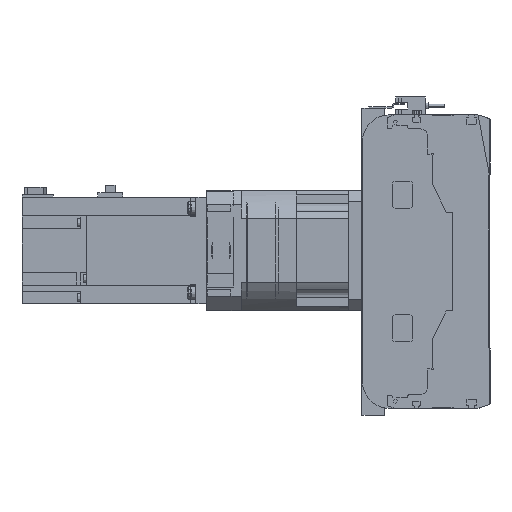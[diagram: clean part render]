
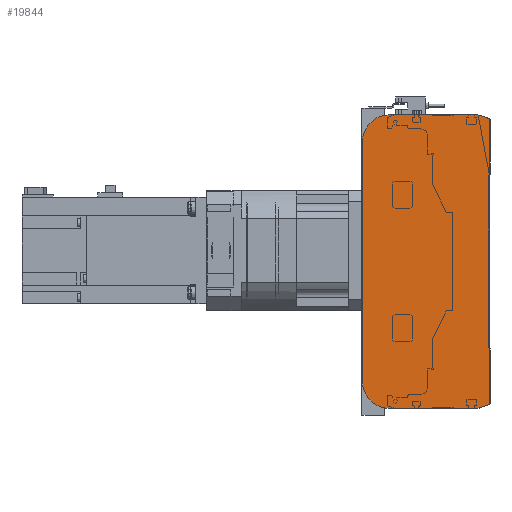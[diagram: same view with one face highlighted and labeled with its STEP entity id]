
A CAD part, left-side view. The second image highlights one B-rep face of the part: STEP entity #19844.
In plain terms, the highlighted planar face has unit normal (-1, 0, 0).
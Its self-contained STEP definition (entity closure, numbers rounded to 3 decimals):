
#1142=CIRCLE('',#21612,20.);
#1143=CIRCLE('',#21615,20.);
#4862=ORIENTED_EDGE('',*,*,#8584,.F.);
#4863=ORIENTED_EDGE('',*,*,#8626,.F.);
#4864=ORIENTED_EDGE('',*,*,#8624,.F.);
#4865=ORIENTED_EDGE('',*,*,#8622,.F.);
#4866=ORIENTED_EDGE('',*,*,#8611,.F.);
#4867=ORIENTED_EDGE('',*,*,#8602,.F.);
#4868=ORIENTED_EDGE('',*,*,#8598,.F.);
#4869=ORIENTED_EDGE('',*,*,#8595,.F.);
#8584=EDGE_CURVE('',#10789,#10790,#12571,.T.);
#8595=EDGE_CURVE('',#10790,#10797,#12582,.T.);
#8598=EDGE_CURVE('',#10797,#10799,#12585,.T.);
#8602=EDGE_CURVE('',#10799,#10800,#12589,.T.);
#8611=EDGE_CURVE('',#10800,#10806,#12598,.T.);
#8622=EDGE_CURVE('',#10806,#10813,#1142,.T.);
#8624=EDGE_CURVE('',#10813,#10814,#12610,.T.);
#8626=EDGE_CURVE('',#10814,#10789,#1143,.T.);
#10789=VERTEX_POINT('',#32950);
#10790=VERTEX_POINT('',#32952);
#10797=VERTEX_POINT('',#32971);
#10799=VERTEX_POINT('',#32977);
#10800=VERTEX_POINT('',#32983);
#10806=VERTEX_POINT('',#32999);
#10813=VERTEX_POINT('',#33018);
#10814=VERTEX_POINT('',#33022);
#12571=LINE('',#32951,#14168);
#12582=LINE('',#32970,#14179);
#12585=LINE('',#32976,#14182);
#12589=LINE('',#32982,#14186);
#12598=LINE('',#32998,#14195);
#12610=LINE('',#33021,#14207);
#14168=VECTOR('',#26123,1000.);
#14179=VECTOR('',#26136,1000.);
#14182=VECTOR('',#26141,1000.);
#14186=VECTOR('',#26147,1000.);
#14195=VECTOR('',#26158,1000.);
#14207=VECTOR('',#26176,1000.);
#15592=EDGE_LOOP('',(#4862,#4863,#4864,#4865,#4866,#4867,#4868,#4869));
#17534=FACE_BOUND('',#15592,.T.);
#18915=PLANE('',#21616);
#19844=ADVANCED_FACE('',(#17534),#18915,.F.);
#21612=AXIS2_PLACEMENT_3D('',#33017,#26171,#26172);
#21615=AXIS2_PLACEMENT_3D('',#33025,#26180,#26181);
#21616=AXIS2_PLACEMENT_3D('',#33026,#26182,#26183);
#26123=DIRECTION('',(0.,-1.,0.));
#26136=DIRECTION('',(0.,-0.945,-0.328));
#26141=DIRECTION('',(0.,0.,-1.));
#26147=DIRECTION('',(0.,0.945,-0.328));
#26158=DIRECTION('',(0.,1.,0.));
#26171=DIRECTION('',(1.,0.,0.));
#26172=DIRECTION('',(0.,0.,-1.));
#26176=DIRECTION('',(0.,0.,1.));
#26180=DIRECTION('',(1.,0.,0.));
#26181=DIRECTION('',(0.,0.,-1.));
#26182=DIRECTION('',(1.,0.,0.));
#26183=DIRECTION('',(0.,0.,-1.));
#32950=CARTESIAN_POINT('',(0.,75.5,110.));
#32951=CARTESIAN_POINT('',(0.,75.5,110.));
#32952=CARTESIAN_POINT('',(0.,9.,110.));
#32970=CARTESIAN_POINT('',(0.,9.,110.));
#32971=CARTESIAN_POINT('',(0.,0.5,107.05));
#32976=CARTESIAN_POINT('',(0.,0.5,107.05));
#32977=CARTESIAN_POINT('',(0.,0.5,-107.05));
#32982=CARTESIAN_POINT('',(0.,0.5,-107.05));
#32983=CARTESIAN_POINT('',(0.,9.,-110.));
#32998=CARTESIAN_POINT('',(0.,9.,-110.));
#32999=CARTESIAN_POINT('',(0.,75.5,-110.));
#33017=CARTESIAN_POINT('',(0.,75.5,-90.));
#33018=CARTESIAN_POINT('',(0.,95.5,-90.));
#33021=CARTESIAN_POINT('',(0.,95.5,-90.));
#33022=CARTESIAN_POINT('',(0.,95.5,90.));
#33025=CARTESIAN_POINT('',(0.,75.5,90.));
#33026=CARTESIAN_POINT('',(0.,75.5,-90.));
